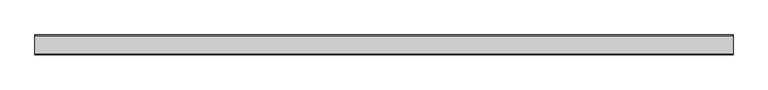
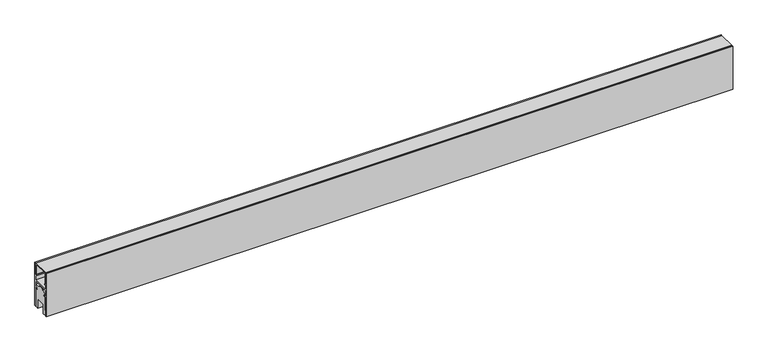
"""IFC4 building model written with IfcOpenShell, lengths in millimetres: light fixture geometry."""

from ifc_helpers import new_model, si_unit, frame, origin, place, context, project, spatial, polyline, outline, extrude, source, transform, mapped, element, save


def light_fixture_7f8fd694(model_context):
    return source(origin(), model_context, "Body", "SweptSolid", [
        extrude(outline(polyline([(-14.217015, -609.6), (14.2170856, -609.6), (14.2170856, -628.8616667), (12.947015, -628.8616667), (12.947015, -610.5876367), (-12.947015, -610.5876367), (-12.947015, -628.8616667), (-14.217015, -628.8616667), (-14.217015, -609.6)])), frame((-1149.35, 0.0, 0.0), z_axis=(1.0, 0.0, 0.0), x_axis=(0.0, 1.0, 0.0)), (0.0, 0.0, 1.0), 1149.35),
        extrude(outline(polyline([(16.4919982, -609.6), (16.4919982, -685.7997212), (14.4814042, -685.7997212), (14.4814042, -652.2511544), (11.3066494, -652.2511544), (11.3066494, -650.4868413), (14.4814042, -650.4868413), (14.4814042, -641.35007), (-14.4814042, -641.35007), (-14.4814042, -650.4868413), (-11.3066494, -650.4868413), (-11.3066494, -652.2511544), (-14.4814042, -652.2511544), (-14.4814042, -685.8), (-16.5273013, -685.8), (-16.5273013, -609.6), (-14.4814042, -609.6), (-14.4814042, -629.6378556), (-12.7179317, -629.6378556), (-12.7179317, -631.4374717), (-14.4814042, -631.4374717), (-14.4814042, -639.0570515), (14.4814042, -639.0570515), (14.4814042, -631.4374717), (12.6826286, -631.4374717), (12.6826286, -629.6378556), (14.4814042, -629.6378556), (14.4814042, -609.6), (16.4919982, -609.6)])), frame((-1149.35, 0.0, 0.0), z_axis=(1.0, 0.0, 0.0), x_axis=(0.0, 1.0, 0.0)), (0.0, 0.0, 1.0), 1149.35),
        extrude(outline(polyline([(4.4852957, -646.6892936), (14.0112902, -646.6892936), (14.0112902, -650.443833), (9.3959035, -650.443833), (9.3959035, -652.6694051), (14.0112902, -652.6694051), (14.0112902, -675.6160039), (12.8989991, -675.6160039), (12.8989991, -685.4890989), (8.1003302, -685.4890989), (8.1003302, -668.801409), (-8.1706129, -668.801409), (-8.1706129, -685.4895938), (-12.8985749, -685.4895938), (-12.8985749, -675.6160039), (-14.0112902, -675.6160039), (-14.0112902, -652.6694051), (-9.3959035, -652.6694051), (-9.3959035, -650.443833), (-14.0112902, -650.443833), (-14.0112902, -646.6892936), (-4.4852957, -646.6892936), (-4.4852957, -644.6027314), (-3.1452024, -643.6290966), (3.1452024, -643.6290966), (4.4852957, -644.6027314), (4.4852957, -646.6892936)])), frame((-1149.35, 0.0, 0.0), z_axis=(1.0, 0.0, 0.0), x_axis=(0.0, 1.0, 0.0)), (0.0, 0.0, 1.0), 1149.35),
    ])


if __name__ == "__main__":
    model = new_model("IFC4")
    model_context = context("Model", 3, world=origin())
    ifc_project = project(units=[si_unit("LENGTHUNIT", "METRE", prefix="MILLI")], contexts=[model_context])
    site = spatial("IfcSite", under=ifc_project)
    building = spatial("IfcBuilding", under=site)
    placement = place(None, origin())
    light_fixture_shape = light_fixture_7f8fd694(model_context)
    element("IfcLightFixture", 1, ObjectType="SF-LD-AXT : 4' (46.25\", 1175mm)", at=placement, inside=building, context=model_context, shape_type="MappedRepresentation", body=[
        mapped(light_fixture_shape, transform((0.0, 0.0, 0.0), x_axis=(1.0, 0.0, 0.0), y_axis=(0.0, 1.0, 0.0), z_axis=(0.0, 0.0, 1.0))),
    ])
    save(model, "model.ifc")
